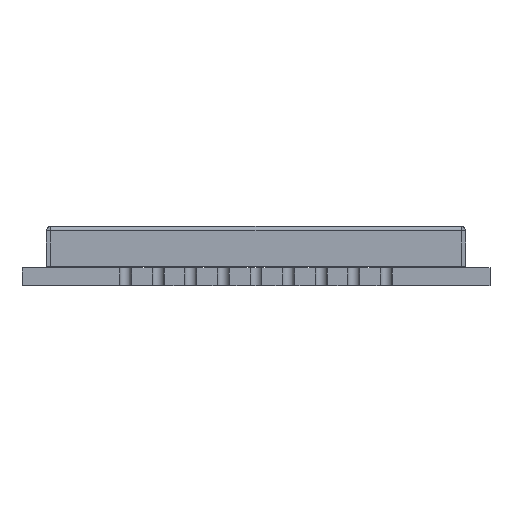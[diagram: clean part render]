
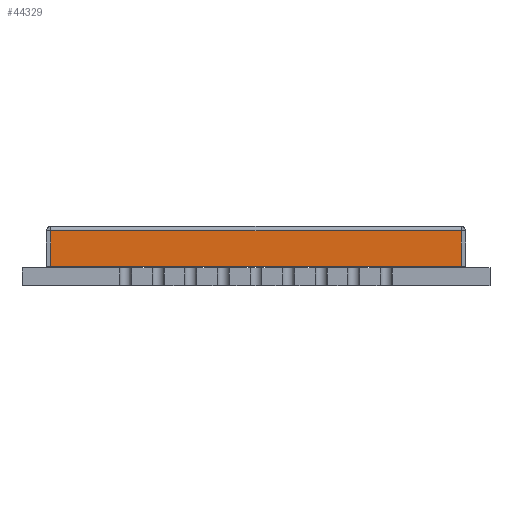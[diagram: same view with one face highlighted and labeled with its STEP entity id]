
A CAD part, front view. The second image highlights one B-rep face of the part: STEP entity #44329.
In plain terms, the highlighted planar face has unit normal (0, -1, 0).
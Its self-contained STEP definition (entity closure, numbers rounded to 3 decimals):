
#18364=DIRECTION('',(-1.,0.,0.));
#18365=VECTOR('',#18364,13.85);
#18366=CARTESIAN_POINT('',(6.925,-8.025,-0.15));
#18367=LINE('',#18366,#18365);
#18382=DIRECTION('',(0.,0.,-1.));
#18383=VECTOR('',#18382,1.2);
#18384=CARTESIAN_POINT('',(-6.925,-8.025,-0.15));
#18385=LINE('',#18384,#18383);
#18386=DIRECTION('',(0.,0.,1.));
#18387=VECTOR('',#18386,1.2);
#18388=CARTESIAN_POINT('',(6.925,-8.025,-1.35));
#18389=LINE('',#18388,#18387);
#18390=DIRECTION('',(1.,0.,0.));
#18391=VECTOR('',#18390,13.85);
#18392=CARTESIAN_POINT('',(-6.925,-8.025,-1.35));
#18393=LINE('',#18392,#18391);
#32956=CARTESIAN_POINT('',(-6.925,-8.025,-0.15));
#32957=CARTESIAN_POINT('',(-6.925,-8.025,-1.35));
#32958=VERTEX_POINT('',#32956);
#32959=VERTEX_POINT('',#32957);
#32960=CARTESIAN_POINT('',(6.925,-8.025,-1.35));
#32961=VERTEX_POINT('',#32960);
#32962=CARTESIAN_POINT('',(6.925,-8.025,-0.15));
#32963=VERTEX_POINT('',#32962);
#44315=CARTESIAN_POINT('',(-6.925,-8.025,0.));
#44316=DIRECTION('',(0.,-1.,0.));
#44317=DIRECTION('',(-1.,0.,0.));
#44318=AXIS2_PLACEMENT_3D('',#44315,#44316,#44317);
#44319=PLANE('',#44318);
#44321=ORIENTED_EDGE('',*,*,#44320,.F.);
#44322=ORIENTED_EDGE('',*,*,#44306,.F.);
#44324=ORIENTED_EDGE('',*,*,#44323,.F.);
#44326=ORIENTED_EDGE('',*,*,#44325,.F.);
#44327=EDGE_LOOP('',(#44321,#44322,#44324,#44326));
#44328=FACE_OUTER_BOUND('',#44327,.F.);
#44329=ADVANCED_FACE('',(#44328),#44319,.T.);
#44306=EDGE_CURVE('',#32963,#32958,#18367,.T.);
#44320=EDGE_CURVE('',#32958,#32959,#18385,.T.);
#44323=EDGE_CURVE('',#32961,#32963,#18389,.T.);
#44325=EDGE_CURVE('',#32959,#32961,#18393,.T.);
